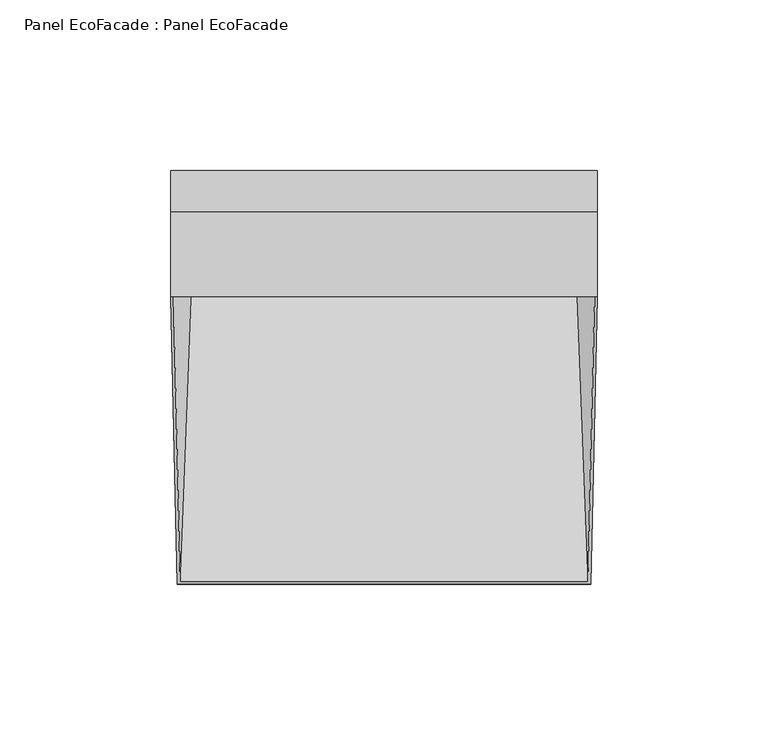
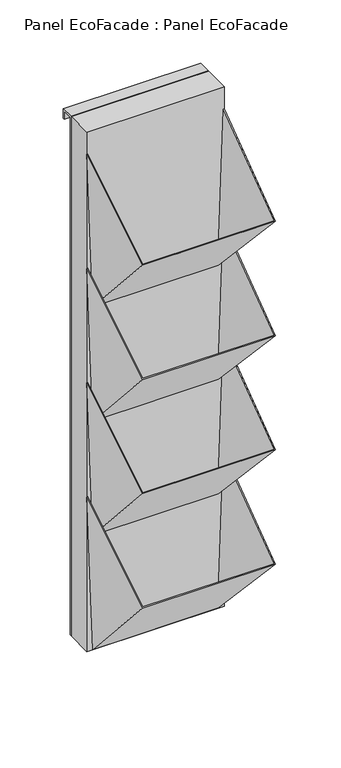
"""IFC4 building model written with IfcOpenShell, lengths in millimetres: plate geometry, Panel EcoFacade : Panel EcoFacade."""

from ifc_helpers import new_model, si_unit, frame, origin, origin_with_axes, place, context, project, spatial, polyline, outline, extrude, faceted_brep, source, transform, mapped, element, save


def panel_ecofacade_panel_ecofacade_49a1f75b(model_context):
    return source(origin(), model_context, "Body", "SolidModel", [
        faceted_brep([(-61.6807851, 0.0, 478.5882353), (-56.5333838, 0.0, 331.185948), (56.5333838, 0.0, 331.185948), (61.6807851, 0.0, 478.5882353), (62.4812727, 0.0, 478.5882353), (57.2924572, 0.0, 330.0), (-57.2924572, 0.0, 330.0), (-62.4812727, 0.0, 478.5882353), (-60.5102218, -84.2, 422.1447224), (-59.725466, -83.5279628, 422.5952229), (60.5102218, -84.2, 422.1447224), (59.725466, -83.5279628, 422.5952229)], [[[0, 1, 2, 3, 4, 5, 6, 7]], [[6, 8, 7]], [[1, 0, 9]], [[0, 7, 8, 10, 4, 3, 11, 9]], [[5, 10, 8, 6]], [[1, 9, 11, 2]], [[4, 10, 5]], [[3, 2, 11]]]),
        faceted_brep([(-61.6807851, 0.0, 368.5882353), (-56.5333838, 0.0, 221.185948), (56.5333838, 0.0, 221.185948), (61.6807851, 0.0, 368.5882353), (62.4812727, 0.0, 368.5882353), (57.2924572, 0.0, 220.0), (-57.2924572, 0.0, 220.0), (-62.4812727, 0.0, 368.5882353), (-60.5102218, -84.2, 312.1447224), (-59.725466, -83.5279628, 312.5952229), (60.5102218, -84.2, 312.1447224), (59.725466, -83.5279628, 312.5952229)], [[[0, 1, 2, 3, 4, 5, 6, 7]], [[6, 8, 7]], [[1, 0, 9]], [[0, 7, 8, 10, 4, 3, 11, 9]], [[5, 10, 8, 6]], [[1, 9, 11, 2]], [[4, 10, 5]], [[3, 2, 11]]]),
        faceted_brep([(-61.6807851, 0.0, 258.5882353), (-56.5333838, 0.0, 111.185948), (56.5333838, 0.0, 111.185948), (61.6807851, 0.0, 258.5882353), (62.4812727, 0.0, 258.5882353), (57.2924572, 0.0, 110.0), (-57.2924572, 0.0, 110.0), (-62.4812727, 0.0, 258.5882353), (-60.5102218, -84.2, 202.1447224), (-59.725466, -83.5279628, 202.5952229), (60.5102218, -84.2, 202.1447224), (59.725466, -83.5279628, 202.5952229)], [[[0, 1, 2, 3, 4, 5, 6, 7]], [[6, 8, 7]], [[1, 0, 9]], [[0, 7, 8, 10, 4, 3, 11, 9]], [[5, 10, 8, 6]], [[1, 9, 11, 2]], [[4, 10, 5]], [[3, 2, 11]]]),
        faceted_brep([(-61.6807851, 0.0, 148.5882353), (-56.5333838, 0.0, 1.185948), (56.5333838, 0.0, 1.185948), (61.6807851, 0.0, 148.5882353), (62.4812727, 0.0, 148.5882353), (57.2924572, 0.0, 0.0), (-57.2924572, 0.0, 0.0), (-62.4812727, 0.0, 148.5882353), (-60.5102218, -84.2, 92.1447224), (-59.725466, -83.5279628, 92.5952229), (60.5102218, -84.2, 92.1447224), (59.725466, -83.5279628, 92.5952229)], [[[0, 1, 2, 3, 4, 5, 6, 7]], [[6, 8, 7]], [[1, 0, 9]], [[0, 7, 8, 10, 4, 3, 11, 9]], [[5, 10, 8, 6]], [[1, 9, 11, 2]], [[4, 10, 5]], [[3, 2, 11]]]),
        extrude(outline(polyline([(26.5, 0.0), (25.0, 0.0), (25.0, 500.0), (37.0, 500.0), (37.0, 491.0), (35.5, 491.0), (35.5, 498.5), (26.5, 498.5), (26.5, 0.0)])), frame((-62.5, 0.0, 0.0), z_axis=(1.0, 0.0, 0.0), x_axis=(0.0, 1.0, 0.0)), (0.0, 0.0, 1.0), 125.0),
        extrude(outline(polyline([(62.5, 25.0), (62.5, 0.0), (-62.5, 0.0), (-62.5, 25.0), (62.5, 25.0)])), origin_with_axes(), (0.0, 0.0, 1.0), 500.0),
    ])


if __name__ == "__main__":
    model = new_model("IFC4")
    model_context = context("Model", 3, world=origin())
    ifc_project = project(units=[si_unit("LENGTHUNIT", "METRE", prefix="MILLI")], contexts=[model_context])
    site = spatial("IfcSite", under=ifc_project)
    building = spatial("IfcBuilding", under=site)
    placement = place(None, origin())
    panel_ecofacade_panel_ecofacade_shape = panel_ecofacade_panel_ecofacade_49a1f75b(model_context)
    element("IfcPlate", 1, ObjectType="Panel EcoFacade : Panel EcoFacade", at=placement, inside=building, context=model_context, shape_type="MappedRepresentation", body=[
        mapped(panel_ecofacade_panel_ecofacade_shape, transform((0.0, 0.0, 0.0), x_axis=(1.0, 0.0, 0.0), y_axis=(0.0, 1.0, 0.0), z_axis=(0.0, 0.0, 1.0))),
    ])
    save(model, "model.ifc")
